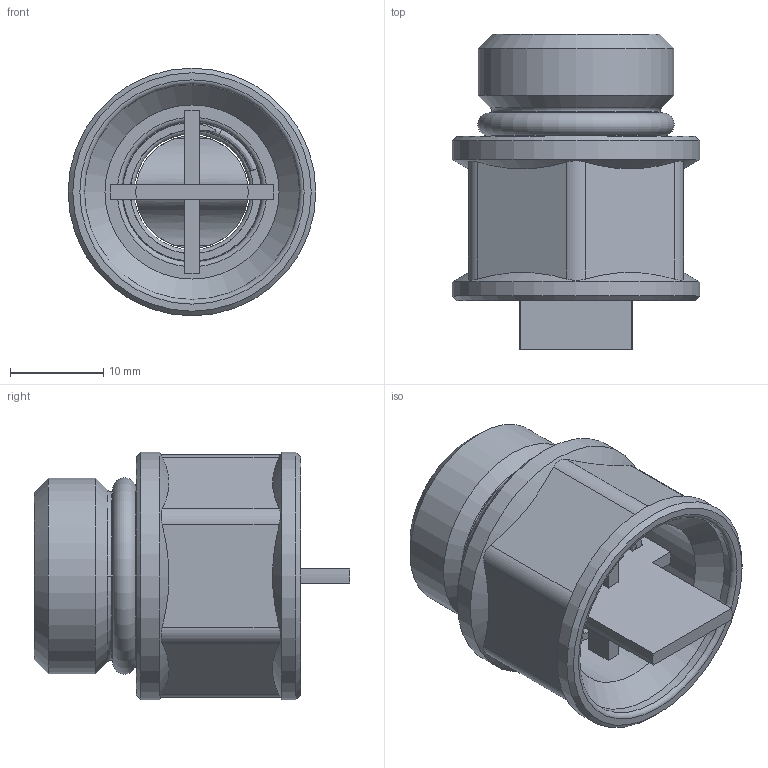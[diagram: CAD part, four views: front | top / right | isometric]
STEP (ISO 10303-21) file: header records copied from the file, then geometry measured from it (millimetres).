
FILE_DESCRIPTION(('STEP AP203'), '1');
FILE_NAME('VT.539.NO.04', '', ('UNSPECIFIED'), ('UNSPECIFIED'), 'C3D Converter', 'C3D Toolkit', '');
FILE_SCHEMA(('CONFIG_CONTROL_DESIGN'));
Length unit declared in the file: millimetre
Products named in the file (1): ВР.494311.001.000 СБ
Bounding box: 26.5 x 33.75 x 26.5 mm (x, y, z)
Volume: 7130.3 mm3; surface area: 6420.9 mm2
Topology: 2 solids, 2 shells, 98 faces, 250 edges, 161 vertices
Faces by surface type: plane 47, cylinder 24, cone 11, torus 10, bspline 6
Full cylindrical faces by diameter (mm): 9.5 x1, 12 x2, 12.4 x1, 15 x1, 16 x1, 18 x1, 18.632 x1, 20.955 x1, 23 x1, 26.5 x2
Entity records: 6660 total; most frequent: CARTESIAN_POINT 4423, ORIENTED_EDGE 434, DIRECTION 429, EDGE_CURVE 217, AXIS2_PLACEMENT_3D 167, VERTEX_POINT 160, EDGE_LOOP 137, ADVANCED_FACE 98
